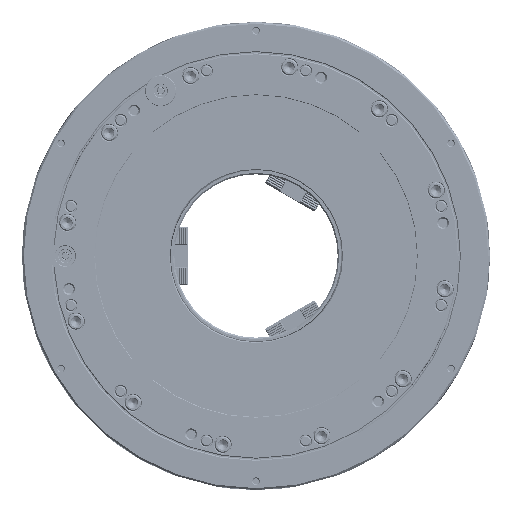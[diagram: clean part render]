
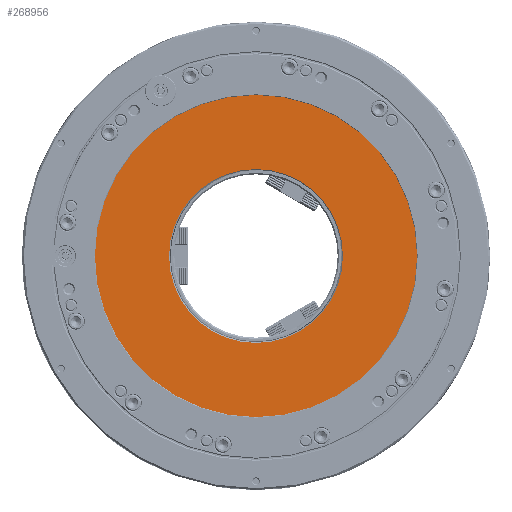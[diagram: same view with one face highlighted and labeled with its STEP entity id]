
A CAD part, left-side view. The second image highlights one B-rep face of the part: STEP entity #268956.
In plain terms, the highlighted planar face has unit normal (-1, 0, 0).
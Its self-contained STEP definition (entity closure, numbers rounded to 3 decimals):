
#512 = DIRECTION ( 'NONE',  ( 1., 0., 0. ) ) ;
#13702 = AXIS2_PLACEMENT_3D ( 'NONE', #222444, #202085, #54033 ) ;
#14297 = CIRCLE ( 'NONE', #13702, 182.5 ) ;
#18093 = CIRCLE ( 'NONE', #92057, 98.5 ) ;
#19231 = AXIS2_PLACEMENT_3D ( 'NONE', #186717, #512, #99853 ) ;
#20634 = EDGE_LOOP ( 'NONE', ( #216684, #97919 ) ) ;
#31447 = VERTEX_POINT ( 'NONE', #39225 ) ;
#37549 = CARTESIAN_POINT ( 'NONE',  ( -17., 0., 0. ) ) ;
#39225 = CARTESIAN_POINT ( 'NONE',  ( -17., 0., -182.5 ) ) ;
#49282 = CARTESIAN_POINT ( 'NONE',  ( -17., 0., 182.5 ) ) ;
#49553 = CIRCLE ( 'NONE', #19231, 182.5 ) ;
#54033 = DIRECTION ( 'NONE',  ( 0., 0., -1. ) ) ;
#64457 = FACE_OUTER_BOUND ( 'NONE', #229894, .T. ) ;
#75778 = ORIENTED_EDGE ( 'NONE', *, *, #113575, .F. ) ;
#80253 = AXIS2_PLACEMENT_3D ( 'NONE', #150085, #217859, #114585 ) ;
#92057 = AXIS2_PLACEMENT_3D ( 'NONE', #37549, #223715, #207370 ) ;
#94020 = AXIS2_PLACEMENT_3D ( 'NONE', #244108, #140935, #206051 ) ;
#97919 = ORIENTED_EDGE ( 'NONE', *, *, #196204, .T. ) ;
#99853 = DIRECTION ( 'NONE',  ( 0., 0., -1. ) ) ;
#104966 = VERTEX_POINT ( 'NONE', #49282 ) ;
#107707 = CARTESIAN_POINT ( 'NONE',  ( -17., 0., -98.5 ) ) ;
#108224 = EDGE_CURVE ( 'NONE', #191083, #110934, #18093, .T. ) ;
#110934 = VERTEX_POINT ( 'NONE', #107707 ) ;
#113575 = EDGE_CURVE ( 'NONE', #31447, #104966, #49553, .T. ) ;
#114585 = DIRECTION ( 'NONE',  ( 0., 0., 1. ) ) ;
#140935 = DIRECTION ( 'NONE',  ( 1., 0., 0. ) ) ;
#149043 = CARTESIAN_POINT ( 'NONE',  ( -17., 0., 98.5 ) ) ;
#150085 = CARTESIAN_POINT ( 'NONE',  ( -17., 182.5, 0. ) ) ;
#186717 = CARTESIAN_POINT ( 'NONE',  ( -17., 0., 0. ) ) ;
#187092 = EDGE_CURVE ( 'NONE', #104966, #31447, #14297, .T. ) ;
#191083 = VERTEX_POINT ( 'NONE', #149043 ) ;
#193894 = CIRCLE ( 'NONE', #94020, 98.5 ) ;
#196204 = EDGE_CURVE ( 'NONE', #110934, #191083, #193894, .T. ) ;
#202085 = DIRECTION ( 'NONE',  ( 1., 0., 0. ) ) ;
#206051 = DIRECTION ( 'NONE',  ( 0., 0., -1. ) ) ;
#207370 = DIRECTION ( 'NONE',  ( 0., 0., -1. ) ) ;
#207590 = ORIENTED_EDGE ( 'NONE', *, *, #187092, .F. ) ;
#209815 = PLANE ( 'NONE',  #80253 ) ;
#216684 = ORIENTED_EDGE ( 'NONE', *, *, #108224, .T. ) ;
#217859 = DIRECTION ( 'NONE',  ( -1., 0., 0. ) ) ;
#222444 = CARTESIAN_POINT ( 'NONE',  ( -17., 0., 0. ) ) ;
#223715 = DIRECTION ( 'NONE',  ( 1., 0., 0. ) ) ;
#229894 = EDGE_LOOP ( 'NONE', ( #75778, #207590 ) ) ;
#244108 = CARTESIAN_POINT ( 'NONE',  ( -17., 0., 0. ) ) ;
#250591 = FACE_BOUND ( 'NONE', #20634, .T. ) ;
#268956 = ADVANCED_FACE ( 'NONE', ( #250591, #64457 ), #209815, .T. ) ;
